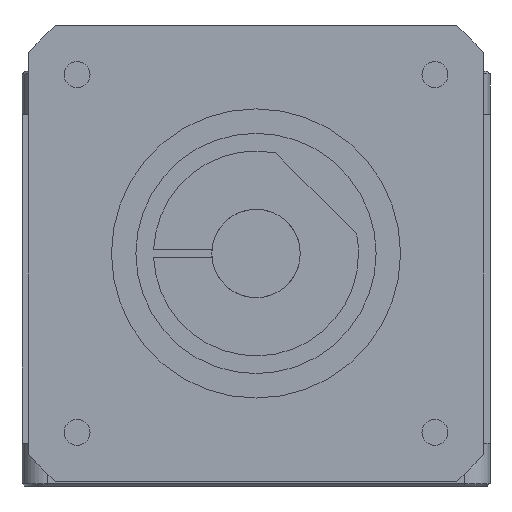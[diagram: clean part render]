
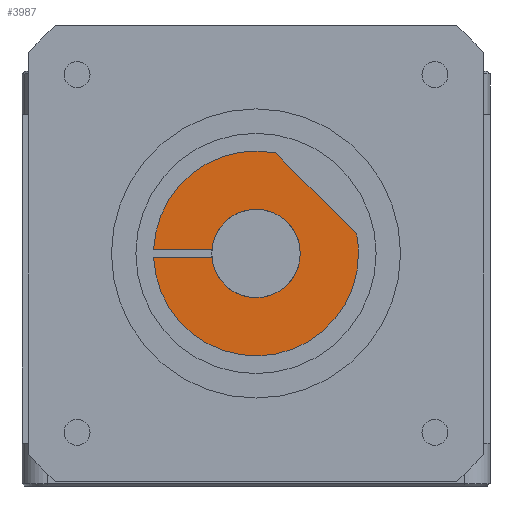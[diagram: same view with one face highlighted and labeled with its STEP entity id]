
A CAD part, front view. The second image highlights one B-rep face of the part: STEP entity #3987.
In plain terms, the highlighted planar face has unit normal (0, -1, 0) as drawn and (0, 0, -1) by its records, which use the part's own axes.
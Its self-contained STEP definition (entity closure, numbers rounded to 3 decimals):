
#42 = CIRCLE ( 'NONE', #4013, 17.5 ) ;
#220 = CARTESIAN_POINT ( 'NONE',  ( 17.5, 0., -145. ) ) ;
#337 = CARTESIAN_POINT ( 'NONE',  ( -40.472, 1.5, -145. ) ) ;
#528 = VERTEX_POINT ( 'NONE', #948 ) ;
#806 = VERTEX_POINT ( 'NONE', #7743 ) ;
#821 = ORIENTED_EDGE ( 'NONE', *, *, #8622, .T. ) ;
#948 = CARTESIAN_POINT ( 'NONE',  ( -17.436, 1.5, -145. ) ) ;
#974 = ORIENTED_EDGE ( 'NONE', *, *, #1142, .F. ) ;
#1001 = VECTOR ( 'NONE', #6208, 1000. ) ;
#1048 = EDGE_CURVE ( 'NONE', #806, #15278, #15185, .T. ) ;
#1137 = VERTEX_POINT ( 'NONE', #220 ) ;
#1142 = EDGE_CURVE ( 'NONE', #528, #1137, #42, .T. ) ;
#1442 = EDGE_LOOP ( 'NONE', ( #2934, #14363, #3299, #7388, #974, #9803, #821, #2557 ) ) ;
#1865 = AXIS2_PLACEMENT_3D ( 'NONE', #3117, #15151, #5502 ) ;
#2557 = ORIENTED_EDGE ( 'NONE', *, *, #3180, .T. ) ;
#2652 = DIRECTION ( 'NONE',  ( -1., 0., 0. ) ) ;
#2659 = LINE ( 'NONE', #7359, #1001 ) ;
#2722 = VERTEX_POINT ( 'NONE', #337 ) ;
#2934 = ORIENTED_EDGE ( 'NONE', *, *, #11416, .F. ) ;
#3117 = CARTESIAN_POINT ( 'NONE',  ( 0., 0., -145. ) ) ;
#3180 = EDGE_CURVE ( 'NONE', #15042, #3729, #4819, .T. ) ;
#3299 = ORIENTED_EDGE ( 'NONE', *, *, #7669, .F. ) ;
#3720 = FACE_OUTER_BOUND ( 'NONE', #1442, .T. ) ;
#3729 = VERTEX_POINT ( 'NONE', #8939 ) ;
#3744 = CARTESIAN_POINT ( 'NONE',  ( -17.436, -1.5, -145. ) ) ;
#3809 = DIRECTION ( 'NONE',  ( -1., 0., 0. ) ) ;
#3987 = ADVANCED_FACE ( 'NONE', ( #3720 ), #6179, .T. ) ;
#4013 = AXIS2_PLACEMENT_3D ( 'NONE', #13275, #5947, #6031 ) ;
#4176 = CARTESIAN_POINT ( 'NONE',  ( 0., 0., -145. ) ) ;
#4819 = CIRCLE ( 'NONE', #6787, 40.5 ) ;
#5183 = CARTESIAN_POINT ( 'NONE',  ( -14.368, -1.5, -145. ) ) ;
#5492 = AXIS2_PLACEMENT_3D ( 'NONE', #15309, #12883, #7903 ) ;
#5502 = DIRECTION ( 'NONE',  ( -1., 0., 0. ) ) ;
#5860 = VERTEX_POINT ( 'NONE', #3744 ) ;
#5947 = DIRECTION ( 'NONE',  ( 0., 0., -1. ) ) ;
#6031 = DIRECTION ( 'NONE',  ( -1., 0., 0. ) ) ;
#6130 = CARTESIAN_POINT ( 'NONE',  ( 0., 0., -145. ) ) ;
#6179 = PLANE ( 'NONE',  #14969 ) ;
#6208 = DIRECTION ( 'NONE',  ( 0.707, 0.707, 0. ) ) ;
#6292 = VECTOR ( 'NONE', #7995, 1000. ) ;
#6787 = AXIS2_PLACEMENT_3D ( 'NONE', #6130, #10894, #2652 ) ;
#7193 = CARTESIAN_POINT ( 'NONE',  ( 40.5, 0., -145. ) ) ;
#7251 = CARTESIAN_POINT ( 'NONE',  ( 0., 0., -145. ) ) ;
#7359 = CARTESIAN_POINT ( 'NONE',  ( 23.75, -23.75, -145. ) ) ;
#7388 = ORIENTED_EDGE ( 'NONE', *, *, #13520, .F. ) ;
#7485 = DIRECTION ( 'NONE',  ( -1., 0., 0. ) ) ;
#7654 = LINE ( 'NONE', #5183, #9148 ) ;
#7669 = EDGE_CURVE ( 'NONE', #5860, #15278, #7654, .T. ) ;
#7743 = CARTESIAN_POINT ( 'NONE',  ( 7.748, -39.752, -145. ) ) ;
#7903 = DIRECTION ( 'NONE',  ( -1., 0., 0. ) ) ;
#7995 = DIRECTION ( 'NONE',  ( 1., 0., 0. ) ) ;
#8269 = EDGE_CURVE ( 'NONE', #2722, #528, #9091, .T. ) ;
#8622 = EDGE_CURVE ( 'NONE', #2722, #15042, #15265, .T. ) ;
#8939 = CARTESIAN_POINT ( 'NONE',  ( 39.752, -7.748, -145. ) ) ;
#9091 = LINE ( 'NONE', #12597, #6292 ) ;
#9148 = VECTOR ( 'NONE', #3809, 1000. ) ;
#9803 = ORIENTED_EDGE ( 'NONE', *, *, #8269, .F. ) ;
#10865 = DIRECTION ( 'NONE',  ( 0., 0., -1. ) ) ;
#10894 = DIRECTION ( 'NONE',  ( 0., 0., -1. ) ) ;
#11248 = CIRCLE ( 'NONE', #12737, 17.5 ) ;
#11416 = EDGE_CURVE ( 'NONE', #806, #3729, #2659, .T. ) ;
#12597 = CARTESIAN_POINT ( 'NONE',  ( -14.368, 1.5, -145. ) ) ;
#12737 = AXIS2_PLACEMENT_3D ( 'NONE', #4176, #14586, #14829 ) ;
#12883 = DIRECTION ( 'NONE',  ( 0., 0., -1. ) ) ;
#13275 = CARTESIAN_POINT ( 'NONE',  ( 0., 0., -145. ) ) ;
#13520 = EDGE_CURVE ( 'NONE', #1137, #5860, #11248, .T. ) ;
#13902 = CARTESIAN_POINT ( 'NONE',  ( -40.472, -1.5, -145. ) ) ;
#14363 = ORIENTED_EDGE ( 'NONE', *, *, #1048, .T. ) ;
#14586 = DIRECTION ( 'NONE',  ( 0., 0., -1. ) ) ;
#14829 = DIRECTION ( 'NONE',  ( -1., 0., 0. ) ) ;
#14969 = AXIS2_PLACEMENT_3D ( 'NONE', #7251, #10865, #7485 ) ;
#15042 = VERTEX_POINT ( 'NONE', #7193 ) ;
#15151 = DIRECTION ( 'NONE',  ( 0., 0., -1. ) ) ;
#15185 = CIRCLE ( 'NONE', #5492, 40.5 ) ;
#15265 = CIRCLE ( 'NONE', #1865, 40.5 ) ;
#15278 = VERTEX_POINT ( 'NONE', #13902 ) ;
#15309 = CARTESIAN_POINT ( 'NONE',  ( 0., 0., -145. ) ) ;
